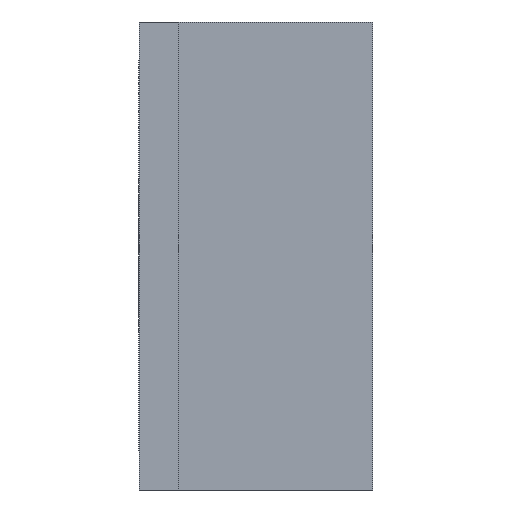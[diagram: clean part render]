
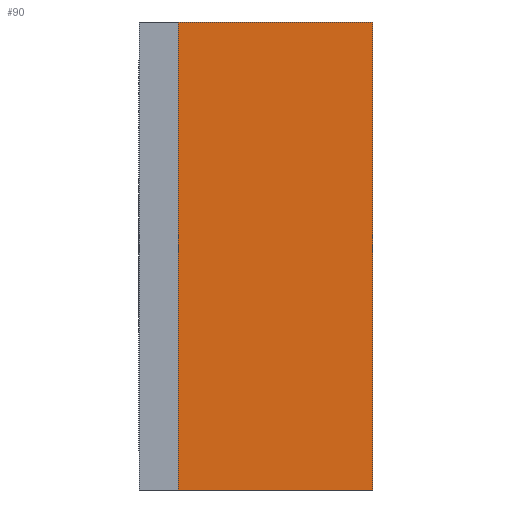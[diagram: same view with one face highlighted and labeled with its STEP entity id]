
A CAD part, left-side view. The second image highlights one B-rep face of the part: STEP entity #90.
In plain terms, the highlighted planar face has unit normal (-1, 0, 0).
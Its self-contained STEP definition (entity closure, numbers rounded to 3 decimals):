
#1 = VECTOR ( 'NONE', #517, 1000. ) ;
#3 = DIRECTION ( 'NONE',  ( 0., 0., 1. ) ) ;
#24 = CARTESIAN_POINT ( 'NONE',  ( 0., 0., 0. ) ) ;
#35 = FACE_OUTER_BOUND ( 'NONE', #286, .T. ) ;
#55 = VECTOR ( 'NONE', #485, 1000. ) ;
#61 = ORIENTED_EDGE ( 'NONE', *, *, #371, .T. ) ;
#63 = CARTESIAN_POINT ( 'NONE',  ( 0., 10., -24. ) ) ;
#80 = CARTESIAN_POINT ( 'NONE',  ( 0., 0., -24. ) ) ;
#83 = VERTEX_POINT ( 'NONE', #472 ) ;
#84 = EDGE_CURVE ( 'NONE', #83, #461, #241, .T. ) ;
#85 = LINE ( 'NONE', #351, #399 ) ;
#90 = ADVANCED_FACE ( 'NONE', ( #35 ), #489, .T. ) ;
#106 = LINE ( 'NONE', #448, #1 ) ;
#127 = ORIENTED_EDGE ( 'NONE', *, *, #84, .T. ) ;
#152 = EDGE_CURVE ( 'NONE', #296, #461, #106, .T. ) ;
#161 = CARTESIAN_POINT ( 'NONE',  ( 0., 0., -24. ) ) ;
#174 = CARTESIAN_POINT ( 'NONE',  ( 0., 10., 0. ) ) ;
#224 = DIRECTION ( 'NONE',  ( 0., -1., 0. ) ) ;
#241 = LINE ( 'NONE', #161, #55 ) ;
#246 = DIRECTION ( 'NONE',  ( 0., 0., 1. ) ) ;
#268 = EDGE_CURVE ( 'NONE', #467, #296, #85, .T. ) ;
#276 = VECTOR ( 'NONE', #224, 1000. ) ;
#286 = EDGE_LOOP ( 'NONE', ( #483, #476, #61, #127 ) ) ;
#296 = VERTEX_POINT ( 'NONE', #174 ) ;
#306 = CARTESIAN_POINT ( 'NONE',  ( 0., 0., -24. ) ) ;
#333 = DIRECTION ( 'NONE',  ( -1., 0., 0. ) ) ;
#339 = AXIS2_PLACEMENT_3D ( 'NONE', #80, #333, #246 ) ;
#351 = CARTESIAN_POINT ( 'NONE',  ( 0., 10., -24. ) ) ;
#371 = EDGE_CURVE ( 'NONE', #467, #83, #437, .T. ) ;
#399 = VECTOR ( 'NONE', #3, 1000. ) ;
#437 = LINE ( 'NONE', #306, #276 ) ;
#448 = CARTESIAN_POINT ( 'NONE',  ( 0., 0., 0. ) ) ;
#461 = VERTEX_POINT ( 'NONE', #24 ) ;
#467 = VERTEX_POINT ( 'NONE', #63 ) ;
#472 = CARTESIAN_POINT ( 'NONE',  ( 0., 0., -24. ) ) ;
#476 = ORIENTED_EDGE ( 'NONE', *, *, #268, .F. ) ;
#483 = ORIENTED_EDGE ( 'NONE', *, *, #152, .F. ) ;
#485 = DIRECTION ( 'NONE',  ( 0., 0., 1. ) ) ;
#489 = PLANE ( 'NONE',  #339 ) ;
#517 = DIRECTION ( 'NONE',  ( 0., -1., 0. ) ) ;
